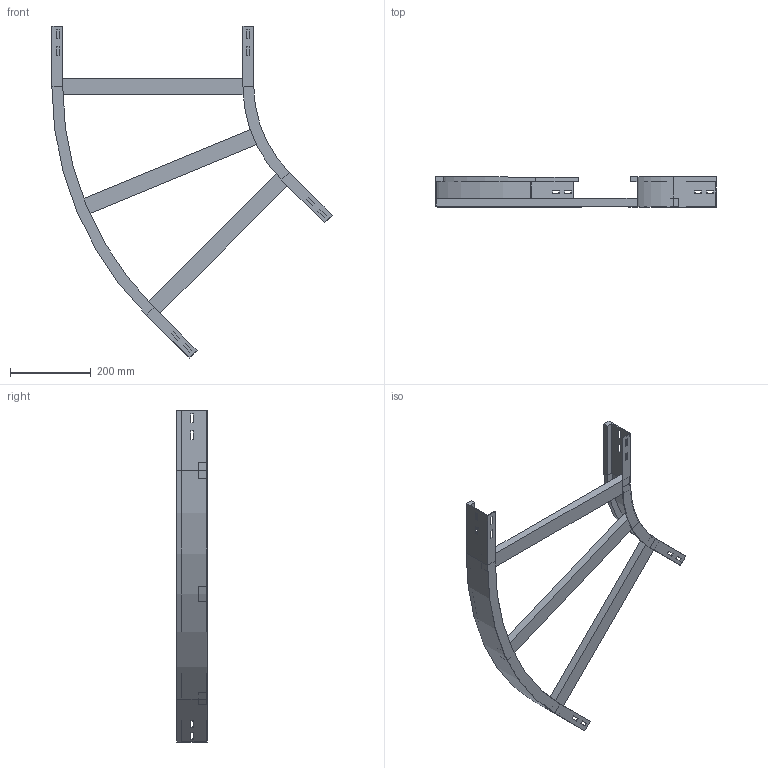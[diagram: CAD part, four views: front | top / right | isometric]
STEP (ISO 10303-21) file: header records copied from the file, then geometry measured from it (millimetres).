
FILE_DESCRIPTION (( 'STEP AP214' ), '1' );
FILE_NAME ('A2_11B3C500.step', '2025-02-21T15:16:06', ( '' ), ( '' ), 'SwSTEP 2.0', 'SolidWorks 2023', '' );
FILE_SCHEMA (( 'AUTOMOTIVE_DESIGN' ));
Length unit declared in the file: millimetre
Products named in the file (4): TRAVERSINO_500; A2_LONGH.INTERNO 45°_H75_R300; A2_11B3C500; A2_LONGH.ESTERNO 45°_H75_R300+500
Assembly tree (5 placements, depth 2):
  A2_11B3C500
    A2_LONGH.INTERNO 45°_H75_R300
    A2_LONGH.ESTERNO 45°_H75_R300+500
    TRAVERSINO_500  x3
Bounding box: 693.93 x 75 x 821.75 mm (x, y, z)
Volume: 1774215.7 mm3; surface area: 528893.4 mm2
Topology: 5 solids, 5 shells, 134 faces, 340 edges, 216 vertices
Faces by surface type: plane 126, cylinder 8
Entity records: 3821 total; most frequent: CARTESIAN_POINT 646, ORIENTED_EDGE 632, DIRECTION 592, EDGE_CURVE 316, VECTOR 300, LINE 300, VERTEX_POINT 200, EDGE_LOOP 154
